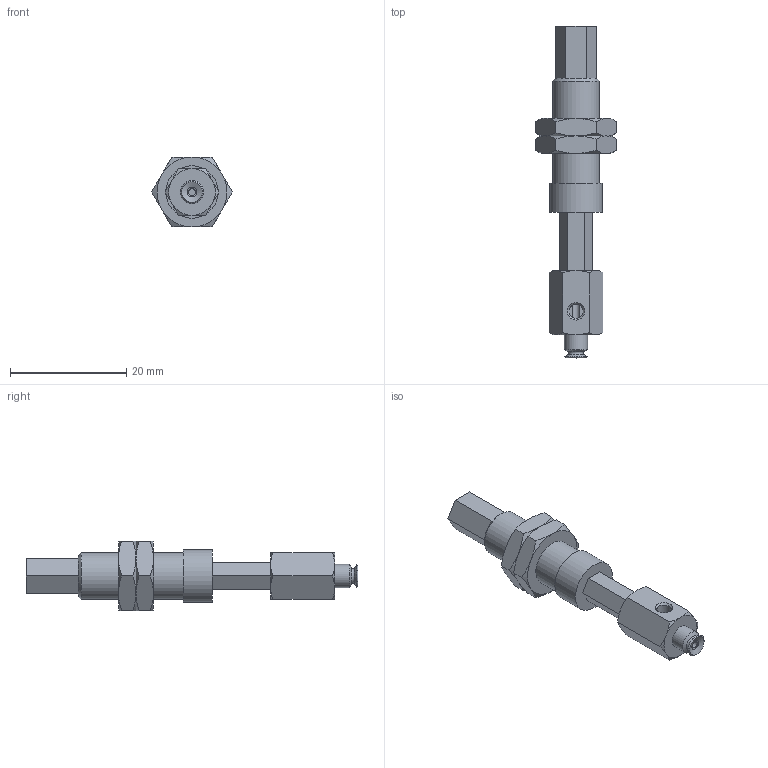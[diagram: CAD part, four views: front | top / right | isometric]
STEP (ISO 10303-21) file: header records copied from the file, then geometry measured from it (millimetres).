
FILE_DESCRIPTION(('STEP AP203'),'1');
FILE_NAME('.stp','2025-04-10T02:21:18',(' '),(' '),'Spatial InterOp 3D',' ',' ');
FILE_SCHEMA(('CONFIG_CONTROL_DESIGN'));
Length unit declared in the file: millimetre
Products named in the file (6): BNABPFYH-3.5A-10-※; CONNECTOR-H-3.5A-10; Nut-3.5A-10-h; NAPFTH-3.5A-10-FBODY; NAPFTH-3.5A-10-MBODY; BPFG-3.5A-※
Assembly tree (6 placements, depth 2):
  BNABPFYH-3.5A-10-※
    CONNECTOR-H-3.5A-10
    Nut-3.5A-10-h  x2
    NAPFTH-3.5A-10-FBODY
    NAPFTH-3.5A-10-MBODY
    BPFG-3.5A-※
Bounding box: 13.86 x 57 x 12 mm (x, y, z)
Volume: 2760.9 mm3; surface area: 3311.4 mm2
Topology: 6 solids, 6 shells, 137 faces, 298 edges, 181 vertices
Faces by surface type: plane 64, cone 51, cylinder 14, torus 7, bspline 1
Full cylindrical faces by diameter (mm): 1.2 x2, 2 x2, 2.459 x2, 3 x3, 4 x1, 7.188 x2, 8 x1, 9 x1
Entity records: 3443 total; most frequent: CARTESIAN_POINT 848, DIRECTION 468, ORIENTED_EDGE 422, EDGE_CURVE 211, AXIS2_PLACEMENT_3D 191, EDGE_LOOP 164, VERTEX_POINT 147, FACE_OUTER_BOUND 135
